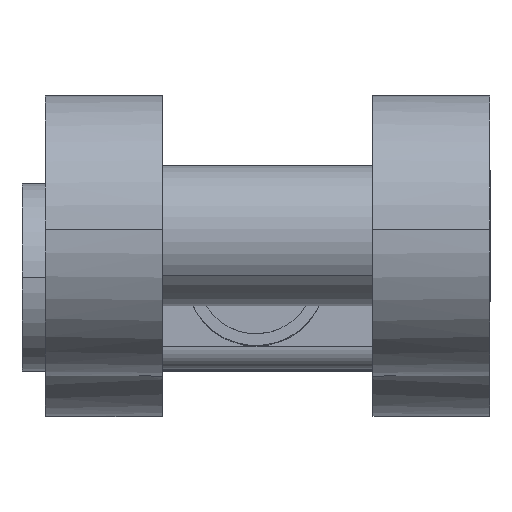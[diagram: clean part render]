
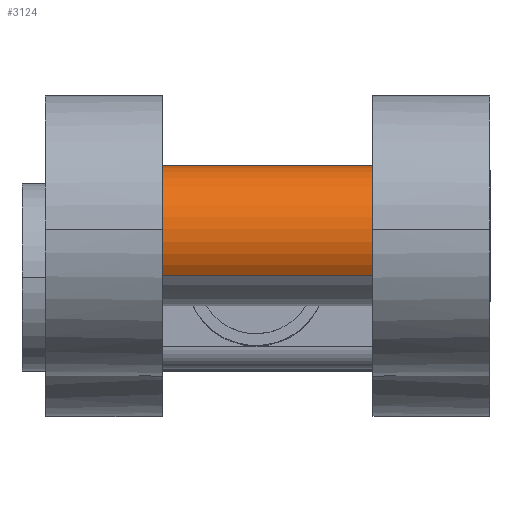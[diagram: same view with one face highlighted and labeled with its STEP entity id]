
A CAD part, top view. The second image highlights one B-rep face of the part: STEP entity #3124.
In plain terms, the highlighted cylindrical face has radius 30 mm (diameter 60 mm), a partial arc.
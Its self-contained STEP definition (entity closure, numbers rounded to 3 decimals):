
#183 = VERTEX_POINT ( 'NONE', #1366 ) ;
#215 = EDGE_CURVE ( 'NONE', #183, #2390, #3666, .T. ) ;
#228 = DIRECTION ( 'NONE',  ( 0., 0., -1. ) ) ;
#460 = AXIS2_PLACEMENT_3D ( 'NONE', #2710, #2747, #525 ) ;
#525 = DIRECTION ( 'NONE',  ( 1., 0., 0. ) ) ;
#585 = FACE_OUTER_BOUND ( 'NONE', #2779, .T. ) ;
#604 = DIRECTION ( 'NONE',  ( 0., 0., -1. ) ) ;
#845 = VECTOR ( 'NONE', #604, 1000. ) ;
#869 = LINE ( 'NONE', #3400, #845 ) ;
#962 = VECTOR ( 'NONE', #2413, 1000. ) ;
#975 = CIRCLE ( 'NONE', #460, 30. ) ;
#1049 = CARTESIAN_POINT ( 'NONE',  ( 30., 0., 2. ) ) ;
#1118 = AXIS2_PLACEMENT_3D ( 'NONE', #2089, #228, #1830 ) ;
#1124 = CARTESIAN_POINT ( 'NONE',  ( -30., 0., 190. ) ) ;
#1355 = CARTESIAN_POINT ( 'NONE',  ( 0., 0., 188. ) ) ;
#1366 = CARTESIAN_POINT ( 'NONE',  ( -30., 0., 188. ) ) ;
#1660 = DIRECTION ( 'NONE',  ( 1., 0., 0. ) ) ;
#1783 = ORIENTED_EDGE ( 'NONE', *, *, #2184, .T. ) ;
#1830 = DIRECTION ( 'NONE',  ( -1., 0., 0. ) ) ;
#1887 = CARTESIAN_POINT ( 'NONE',  ( 30., 0., 188. ) ) ;
#1920 = AXIS2_PLACEMENT_3D ( 'NONE', #1355, #2642, #1660 ) ;
#2089 = CARTESIAN_POINT ( 'NONE',  ( 0., 0., 190. ) ) ;
#2144 = CYLINDRICAL_SURFACE ( 'NONE', #1118, 30. ) ;
#2184 = EDGE_CURVE ( 'NONE', #183, #3311, #3683, .T. ) ;
#2231 = VERTEX_POINT ( 'NONE', #1049 ) ;
#2390 = VERTEX_POINT ( 'NONE', #3213 ) ;
#2413 = DIRECTION ( 'NONE',  ( 0., 0., -1. ) ) ;
#2477 = ORIENTED_EDGE ( 'NONE', *, *, #215, .F. ) ;
#2642 = DIRECTION ( 'NONE',  ( 0., 0., -1. ) ) ;
#2710 = CARTESIAN_POINT ( 'NONE',  ( 0., 0., 2. ) ) ;
#2747 = DIRECTION ( 'NONE',  ( 0., 0., 1. ) ) ;
#2779 = EDGE_LOOP ( 'NONE', ( #1783, #3702, #3762, #2477 ) ) ;
#3033 = EDGE_CURVE ( 'NONE', #2231, #2390, #975, .T. ) ;
#3124 = ADVANCED_FACE ( 'NONE', ( #585 ), #2144, .T. ) ;
#3154 = EDGE_CURVE ( 'NONE', #3311, #2231, #869, .T. ) ;
#3213 = CARTESIAN_POINT ( 'NONE',  ( -30., 0., 2. ) ) ;
#3311 = VERTEX_POINT ( 'NONE', #1887 ) ;
#3400 = CARTESIAN_POINT ( 'NONE',  ( 30., 0., 190. ) ) ;
#3666 = LINE ( 'NONE', #1124, #962 ) ;
#3683 = CIRCLE ( 'NONE', #1920, 30. ) ;
#3702 = ORIENTED_EDGE ( 'NONE', *, *, #3154, .T. ) ;
#3762 = ORIENTED_EDGE ( 'NONE', *, *, #3033, .T. ) ;
